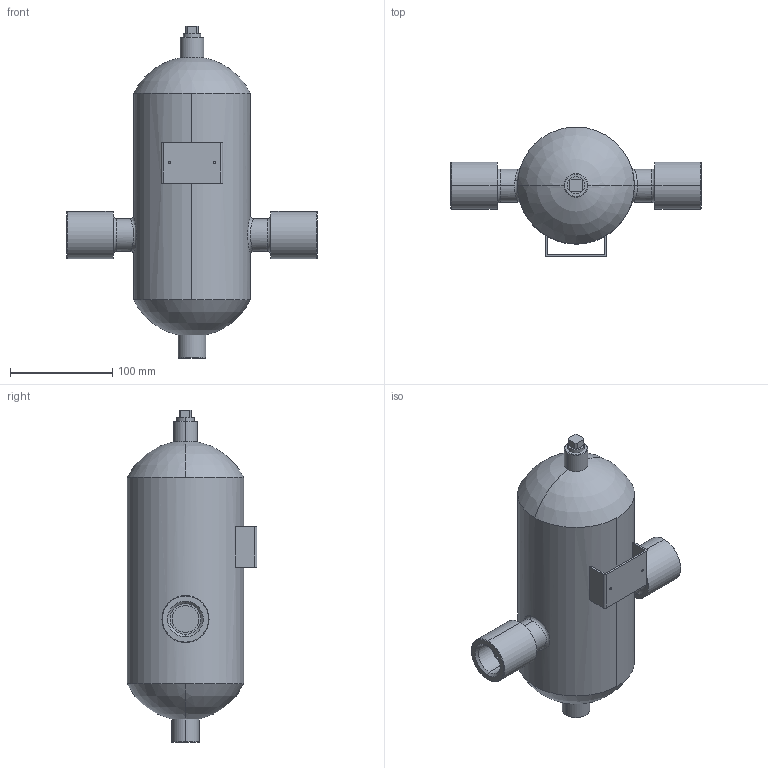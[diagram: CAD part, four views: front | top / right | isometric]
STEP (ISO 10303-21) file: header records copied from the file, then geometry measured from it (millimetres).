
FILE_DESCRIPTION( (''), '2;1');
FILE_NAME ('PC2078.19660.DS-10 25A_9594.stp','2026-03-10T12:50:15',(''),(''),'spGate 20.6.3 (****-****-****-****)','','');
FILE_SCHEMA (('AUTOMOTIVE_DESIGN'));
Length unit declared in the file: millimetre
Products named in the file (3): Assembly; 25A JIS Rc; 10Aプラグ
Assembly tree (2 placements, depth 2):
  Assembly
    25A JIS Rc
    10Aプラグ
Bounding box: 244 x 126.71 x 324 mm (x, y, z)
Volume: 608432 mm3; surface area: 293538.9 mm2
Topology: 2 solids, 2 shells, 140 faces, 342 edges, 220 vertices
Faces by surface type: plane 70, cylinder 40, bspline 26, sphere 4
Entity records: 8286 total; most frequent: CARTESIAN_POINT 2314, ORIENTED_EDGE 684, DIRECTION 604, COLOUR_RGB 484, PRESENTATION_STYLE_ASSIGNMENT 484, STYLED_ITEM 484, EDGE_CURVE 342, DRAUGHTING_PRE_DEFINED_CURVE_FONT 342
